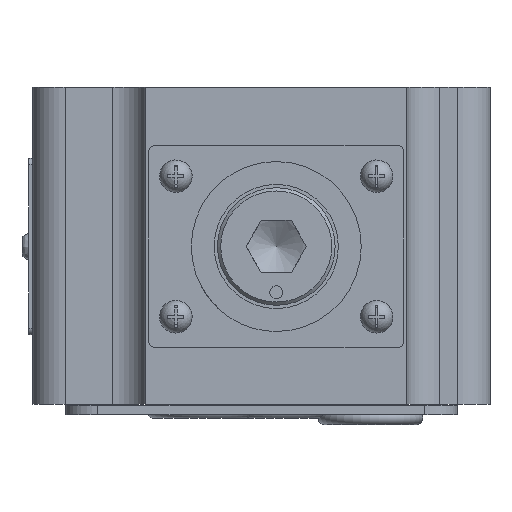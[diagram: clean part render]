
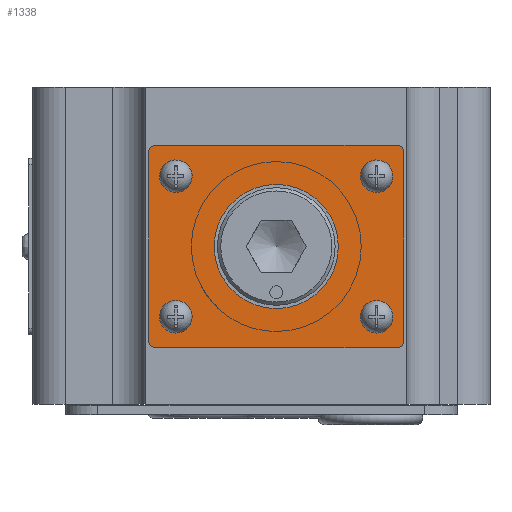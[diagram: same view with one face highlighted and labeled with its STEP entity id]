
A CAD part, left-side view. The second image highlights one B-rep face of the part: STEP entity #1338.
In plain terms, the highlighted planar face has unit normal (-1, 0, 0).
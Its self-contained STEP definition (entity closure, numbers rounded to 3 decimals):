
#577=PLANE('',#7558);
#843=FACE_BOUND('',#2221,.T.);
#844=FACE_BOUND('',#2222,.T.);
#845=FACE_BOUND('',#2223,.T.);
#846=FACE_BOUND('',#2224,.T.);
#847=FACE_BOUND('',#2225,.T.);
#848=FACE_BOUND('',#2226,.T.);
#1338=ADVANCED_FACE('',(#843,#844,#845,#846,#847,#848),#577,.F.);
#2221=EDGE_LOOP('',(#3714,#3715,#3716,#3717,#3718,#3719,#3720,#3721));
#2222=EDGE_LOOP('',(#3722));
#2223=EDGE_LOOP('',(#3723));
#2224=EDGE_LOOP('',(#3724));
#2225=EDGE_LOOP('',(#3725));
#2226=EDGE_LOOP('',(#3726));
#2871=CIRCLE('',#7529,1.);
#2873=CIRCLE('',#7533,1.);
#2875=CIRCLE('',#7537,1.);
#2876=CIRCLE('',#7540,2.);
#2878=CIRCLE('',#7543,9.5);
#2880=CIRCLE('',#7546,2.);
#2882=CIRCLE('',#7549,2.);
#2885=CIRCLE('',#7553,1.);
#2886=CIRCLE('',#7555,2.);
#3714=ORIENTED_EDGE('',*,*,#5967,.F.);
#3715=ORIENTED_EDGE('',*,*,#5996,.F.);
#3716=ORIENTED_EDGE('',*,*,#5985,.F.);
#3717=ORIENTED_EDGE('',*,*,#5982,.F.);
#3718=ORIENTED_EDGE('',*,*,#5979,.F.);
#3719=ORIENTED_EDGE('',*,*,#5976,.F.);
#3720=ORIENTED_EDGE('',*,*,#5973,.F.);
#3721=ORIENTED_EDGE('',*,*,#5970,.F.);
#3722=ORIENTED_EDGE('',*,*,#5993,.T.);
#3723=ORIENTED_EDGE('',*,*,#5991,.T.);
#3724=ORIENTED_EDGE('',*,*,#5989,.T.);
#3725=ORIENTED_EDGE('',*,*,#5987,.T.);
#3726=ORIENTED_EDGE('',*,*,#5997,.T.);
#5240=VERTEX_POINT('',#20061);
#5241=VERTEX_POINT('',#20063);
#5243=VERTEX_POINT('',#20069);
#5245=VERTEX_POINT('',#20075);
#5247=VERTEX_POINT('',#20081);
#5249=VERTEX_POINT('',#20087);
#5251=VERTEX_POINT('',#20093);
#5253=VERTEX_POINT('',#20099);
#5254=VERTEX_POINT('',#20103);
#5256=VERTEX_POINT('',#20108);
#5258=VERTEX_POINT('',#20113);
#5260=VERTEX_POINT('',#20118);
#5262=VERTEX_POINT('',#20126);
#5967=EDGE_CURVE('',#5240,#5241,#6774,.T.);
#5970=EDGE_CURVE('',#5241,#5243,#2871,.T.);
#5973=EDGE_CURVE('',#5243,#5245,#6778,.T.);
#5976=EDGE_CURVE('',#5245,#5247,#2873,.T.);
#5979=EDGE_CURVE('',#5247,#5249,#6782,.T.);
#5982=EDGE_CURVE('',#5249,#5251,#2875,.T.);
#5985=EDGE_CURVE('',#5251,#5253,#6786,.T.);
#5987=EDGE_CURVE('',#5254,#5254,#2876,.T.);
#5989=EDGE_CURVE('',#5256,#5256,#2878,.T.);
#5991=EDGE_CURVE('',#5258,#5258,#2880,.T.);
#5993=EDGE_CURVE('',#5260,#5260,#2882,.T.);
#5996=EDGE_CURVE('',#5253,#5240,#2885,.T.);
#5997=EDGE_CURVE('',#5262,#5262,#2886,.T.);
#6774=LINE('',#20062,#7130);
#6778=LINE('',#20074,#7134);
#6782=LINE('',#20086,#7138);
#6786=LINE('',#20098,#7142);
#7130=VECTOR('',#8583,1.);
#7134=VECTOR('',#8595,1.);
#7138=VECTOR('',#8607,1.);
#7142=VECTOR('',#8619,1.);
#7529=AXIS2_PLACEMENT_3D('',#20068,#8589,#8590);
#7533=AXIS2_PLACEMENT_3D('',#20080,#8601,#8602);
#7537=AXIS2_PLACEMENT_3D('',#20092,#8613,#8614);
#7540=AXIS2_PLACEMENT_3D('',#20102,#8623,#8624);
#7543=AXIS2_PLACEMENT_3D('',#20107,#8629,#8630);
#7546=AXIS2_PLACEMENT_3D('',#20112,#8635,#8636);
#7549=AXIS2_PLACEMENT_3D('',#20117,#8641,#8642);
#7553=AXIS2_PLACEMENT_3D('',#20123,#8649,#8650);
#7555=AXIS2_PLACEMENT_3D('',#20125,#8653,#8654);
#7558=AXIS2_PLACEMENT_3D('',#20130,#8659,#8660);
#8583=DIRECTION('',(0.,0.,-1.));
#8589=DIRECTION('',(1.,0.,0.));
#8590=DIRECTION('',(0.,1.,0.));
#8595=DIRECTION('',(0.,1.,0.));
#8601=DIRECTION('',(1.,0.,0.));
#8602=DIRECTION('',(0.,1.,0.));
#8607=DIRECTION('',(0.,0.,1.));
#8613=DIRECTION('',(1.,0.,0.));
#8614=DIRECTION('',(0.,1.,0.));
#8619=DIRECTION('',(0.,-1.,0.));
#8623=DIRECTION('',(1.,0.,0.));
#8624=DIRECTION('',(0.,1.,0.));
#8629=DIRECTION('',(1.,0.,0.));
#8630=DIRECTION('',(0.,1.,0.));
#8635=DIRECTION('',(1.,0.,0.));
#8636=DIRECTION('',(0.,1.,0.));
#8641=DIRECTION('',(1.,0.,0.));
#8642=DIRECTION('',(0.,1.,0.));
#8649=DIRECTION('',(1.,0.,0.));
#8650=DIRECTION('',(0.,1.,0.));
#8653=DIRECTION('',(1.,0.,0.));
#8654=DIRECTION('',(0.,1.,0.));
#8659=DIRECTION('',(1.,0.,0.));
#8660=DIRECTION('',(0.,-1.,0.));
#20061=CARTESIAN_POINT('',(-145.376,43.755,30.75));
#20062=CARTESIAN_POINT('',(-145.376,43.755,30.75));
#20063=CARTESIAN_POINT('',(-145.376,43.755,1.75));
#20068=CARTESIAN_POINT('',(-145.376,44.755,1.75));
#20069=CARTESIAN_POINT('',(-145.376,44.755,0.75));
#20074=CARTESIAN_POINT('',(-145.376,44.755,0.75));
#20075=CARTESIAN_POINT('',(-145.376,81.755,0.75));
#20080=CARTESIAN_POINT('',(-145.376,81.755,1.75));
#20081=CARTESIAN_POINT('',(-145.376,82.755,1.75));
#20086=CARTESIAN_POINT('',(-145.376,82.755,1.75));
#20087=CARTESIAN_POINT('',(-145.376,82.755,30.75));
#20092=CARTESIAN_POINT('',(-145.376,81.755,30.75));
#20093=CARTESIAN_POINT('',(-145.376,81.755,31.75));
#20098=CARTESIAN_POINT('',(-145.376,81.755,31.75));
#20099=CARTESIAN_POINT('',(-145.376,44.755,31.75));
#20102=CARTESIAN_POINT('',(-145.376,78.614,5.495));
#20103=CARTESIAN_POINT('',(-145.376,80.614,5.495));
#20107=CARTESIAN_POINT('',(-145.376,63.255,16.25));
#20108=CARTESIAN_POINT('',(-145.376,72.755,16.25));
#20112=CARTESIAN_POINT('',(-145.376,47.896,27.005));
#20113=CARTESIAN_POINT('',(-145.376,49.896,27.005));
#20117=CARTESIAN_POINT('',(-145.376,47.896,5.495));
#20118=CARTESIAN_POINT('',(-145.376,49.896,5.495));
#20123=CARTESIAN_POINT('',(-145.376,44.755,30.75));
#20125=CARTESIAN_POINT('',(-145.376,78.614,27.005));
#20126=CARTESIAN_POINT('',(-145.376,80.614,27.005));
#20130=CARTESIAN_POINT('',(-145.376,44.755,1.75));
